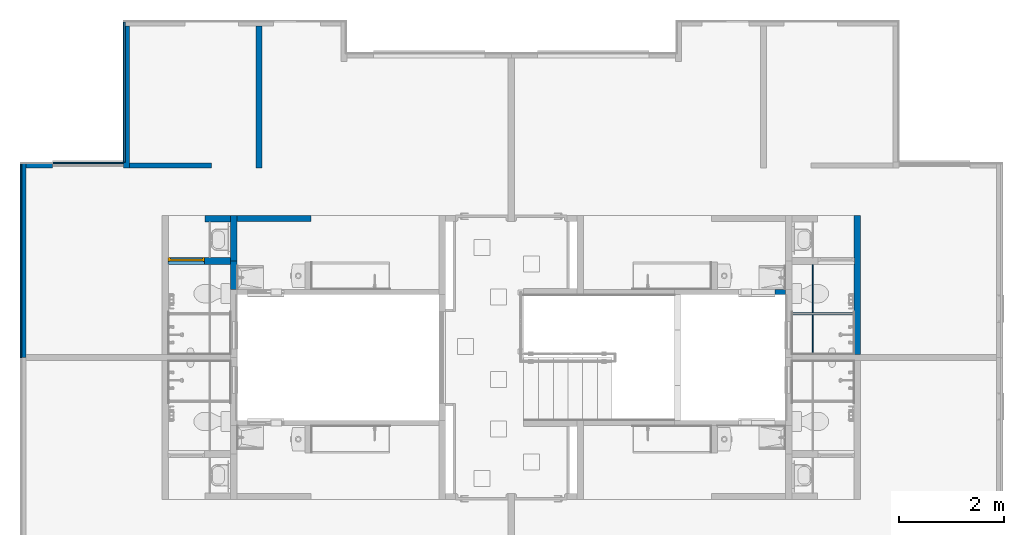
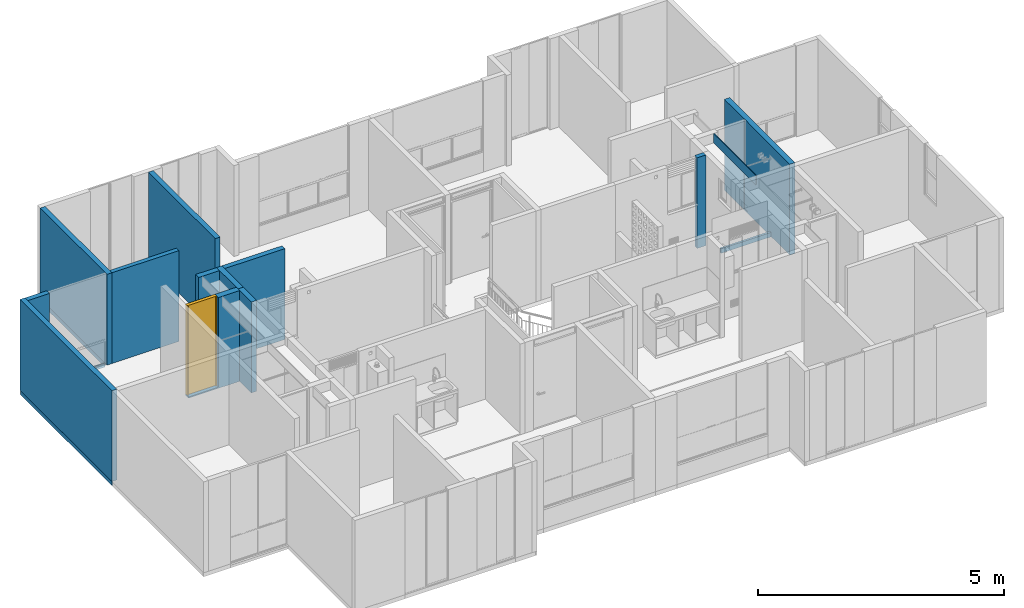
# One storey, part 15 of 47: 17 walls, 1 door, 2 openings.
"""IFC4 building model written with IfcOpenShell, lengths in metres."""

from ifc_helpers import new_model, entity, si_unit, converted_unit, derived_unit, direction, frame, origin, place, context, subcontext, project, spatial, indexed_curve, outline, extrude, polygons, source, transform, mapped, material, constituent, constituent_set, type_object, type_shapes, element, fill, save


model = new_model("IFC4")

# Units and contexts
model_context = context("Model", 3, precision=1e-05, world=origin(), true_north=direction((6.123031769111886e-17, 1.0)))
body_context = subcontext(model_context, "Body", "Model", "MODEL_VIEW")
ifc_project = project(units=[si_unit("LENGTHUNIT", "METRE"), si_unit("AREAUNIT", "SQUARE_METRE"), si_unit("VOLUMEUNIT", "CUBIC_METRE"), converted_unit("PLANEANGLEUNIT", "DEGREE", entity("IfcRatioMeasure", 0.017453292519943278), si_unit("PLANEANGLEUNIT", "RADIAN"), dimensions=[0, 0, 0, 0, 0, 0, 0]), si_unit("MASSUNIT", "GRAM", prefix="KILO"), derived_unit("MASSDENSITYUNIT", [(si_unit("MASSUNIT", "GRAM", prefix="KILO"), 1), (si_unit("LENGTHUNIT", "METRE"), -3)]), derived_unit("IONCONCENTRATIONUNIT", [(si_unit("MASSUNIT", "GRAM", prefix="KILO"), 1), (si_unit("LENGTHUNIT", "METRE"), -3)]), derived_unit("MOMENTOFINERTIAUNIT", [(si_unit("LENGTHUNIT", "METRE"), 4)]), si_unit("TIMEUNIT", "SECOND"), si_unit("FREQUENCYUNIT", "HERTZ"), si_unit("THERMODYNAMICTEMPERATUREUNIT", "DEGREE_CELSIUS"), derived_unit("THERMALTRANSMITTANCEUNIT", [(si_unit("MASSUNIT", "GRAM", prefix="KILO"), 1), (si_unit("THERMODYNAMICTEMPERATUREUNIT", "KELVIN"), -1), (si_unit("TIMEUNIT", "SECOND"), -3)]), derived_unit("THERMALCONDUCTANCEUNIT", [(si_unit("MASSUNIT", "GRAM", prefix="KILO"), 1), (si_unit("THERMODYNAMICTEMPERATUREUNIT", "KELVIN"), -1), (si_unit("TIMEUNIT", "SECOND"), -3), (si_unit("LENGTHUNIT", "METRE"), 1)]), derived_unit("VOLUMETRICFLOWRATEUNIT", [(si_unit("LENGTHUNIT", "METRE"), 3), (si_unit("TIMEUNIT", "SECOND"), -1)]), derived_unit("MASSFLOWRATEUNIT", [(si_unit("MASSUNIT", "GRAM", prefix="KILO"), 1), (si_unit("TIMEUNIT", "SECOND"), -1)]), derived_unit("ROTATIONALFREQUENCYUNIT", [(si_unit("TIMEUNIT", "SECOND"), -1)]), si_unit("ELECTRICCURRENTUNIT", "AMPERE"), si_unit("ELECTRICVOLTAGEUNIT", "VOLT"), si_unit("POWERUNIT", "WATT"), si_unit("FORCEUNIT", "NEWTON", prefix="KILO"), si_unit("ILLUMINANCEUNIT", "LUX"), si_unit("LUMINOUSFLUXUNIT", "LUMEN"), si_unit("LUMINOUSINTENSITYUNIT", "CANDELA"), derived_unit("USERDEFINED", [(si_unit("MASSUNIT", "GRAM", prefix="KILO"), -1), (si_unit("LENGTHUNIT", "METRE"), -2), (si_unit("TIMEUNIT", "SECOND"), 3), (si_unit("LUMINOUSFLUXUNIT", "LUMEN"), 1)]), derived_unit("USERDEFINED", [(si_unit("MASSUNIT", "GRAM", prefix="KILO"), 1), (si_unit("TIMEUNIT", "SECOND"), -3), (si_unit("LENGTHUNIT", "METRE"), 3), (si_unit("ELECTRICCURRENTUNIT", "AMPERE"), -2)]), derived_unit("SOUNDPOWERUNIT", [(si_unit("MASSUNIT", "GRAM", prefix="KILO"), 1), (si_unit("TIMEUNIT", "SECOND"), -3), (si_unit("LENGTHUNIT", "METRE"), 2)]), derived_unit("SOUNDPRESSUREUNIT", [(si_unit("MASSUNIT", "GRAM", prefix="KILO"), 1), (si_unit("LENGTHUNIT", "METRE"), -1), (si_unit("TIMEUNIT", "SECOND"), -2)]), derived_unit("LINEARVELOCITYUNIT", [(si_unit("LENGTHUNIT", "METRE"), 1), (si_unit("TIMEUNIT", "SECOND"), -1)]), si_unit("PRESSUREUNIT", "PASCAL"), derived_unit("USERDEFINED", [(si_unit("MASSUNIT", "GRAM", prefix="KILO"), 1), (si_unit("LENGTHUNIT", "METRE"), -2), (si_unit("TIMEUNIT", "SECOND"), -2)]), derived_unit("LINEARFORCEUNIT", [(si_unit("MASSUNIT", "GRAM", prefix="KILO"), 1), (si_unit("TIMEUNIT", "SECOND"), -2)]), derived_unit("PLANARFORCEUNIT", [(si_unit("MASSUNIT", "GRAM", prefix="KILO"), 1), (si_unit("LENGTHUNIT", "METRE"), -1), (si_unit("TIMEUNIT", "SECOND"), -2)]), derived_unit("SPECIFICHEATCAPACITYUNIT", [(si_unit("THERMODYNAMICTEMPERATUREUNIT", "KELVIN"), -1), (si_unit("LENGTHUNIT", "METRE"), 2), (si_unit("TIMEUNIT", "SECOND"), -2)]), derived_unit("HEATINGVALUEUNIT", [(si_unit("LENGTHUNIT", "METRE"), 2), (si_unit("TIMEUNIT", "SECOND"), -2)]), derived_unit("VAPORPERMEABILITYUNIT", [(si_unit("LENGTHUNIT", "METRE"), -1), (si_unit("TIMEUNIT", "SECOND"), 1)]), derived_unit("DYNAMICVISCOSITYUNIT", [(si_unit("MASSUNIT", "GRAM", prefix="KILO"), 1), (si_unit("TIMEUNIT", "SECOND"), -1), (si_unit("LENGTHUNIT", "METRE"), -1)]), derived_unit("THERMALEXPANSIONCOEFFICIENTUNIT", [(si_unit("THERMODYNAMICTEMPERATUREUNIT", "KELVIN"), -1)]), derived_unit("MODULUSOFELASTICITYUNIT", [(si_unit("MASSUNIT", "GRAM", prefix="KILO"), 1), (si_unit("LENGTHUNIT", "METRE"), -1), (si_unit("TIMEUNIT", "SECOND"), -2)]), derived_unit("ISOTHERMALMOISTURECAPACITYUNIT", [(si_unit("LENGTHUNIT", "METRE"), 3), (si_unit("MASSUNIT", "GRAM", prefix="KILO"), -1)]), derived_unit("MOISTUREDIFFUSIVITYUNIT", [(si_unit("TIMEUNIT", "SECOND"), -1), (si_unit("LENGTHUNIT", "METRE"), 2)])], contexts=[model_context])

# Site, building, storey
site_placement = place(None, origin())
site = spatial("IfcSite", under=ifc_project, at=site_placement, Name="Default", CompositionType="ELEMENT")
building_placement = place(site_placement, origin())
building = spatial("IfcBuilding", under=site, at=building_placement, CompositionType="ELEMENT")
storey_placement = place(building_placement, frame((0.0, 0.0, 11.750000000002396)))
storey = spatial("IfcBuildingStorey", under=building, at=storey_placement, Name="Nivel 6", CompositionType="ELEMENT", Elevation=11.750000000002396)

# Walls
ifc_material_1 = material(Name="Ladrillo claro (Aire)", Category="Materials")
wall_type_1 = type_object("IfcWallType", Name="Basic Wall:B2010 - 0.115m - Muro exterior en mampostería - Ladrillo", PredefinedType="STANDARD")
wall_1_placement = place(storey_placement, frame((0.0, -2.6950000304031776, 0.0), z_axis=(0.0, 0.0, 1.0), x_axis=(0.0, -1.0, 0.0)))
element("IfcWall", 1, at=wall_1_placement, inside=storey, type_object=wall_type_1, material=ifc_material_1, Name="Basic Wall:B2010 - 0.115m - Muro exterior en mampostería - Ladrillo", ObjectType="Basic Wall:B2010 - 0.115m - Muro exterior en mampostería - Ladrillo", PredefinedType="NOTDEFINED", context=body_context, shape_type="SweptSolid", body=[
    extrude(outline(indexed_curve([(3.7299999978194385, 0.0575), (-8.90011336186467e-17, 0.0575), (8.90011336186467e-17, -0.0575), (3.7299999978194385, -0.0575), (3.7299999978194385, 0.0575)], self_intersect=False)), origin(), (0.0, 0.0, 1.0), 2.2500000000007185),
])
wall_2_placement = place(storey_placement, frame((1.9749999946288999, -2.8100000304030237, 0.0), z_axis=(0.0, 0.0, 1.0), x_axis=(0.0, 1.0, 0.0)))
element("IfcWall", 2, at=wall_2_placement, inside=storey, type_object=wall_type_1, material=ifc_material_1, Name="Basic Wall:B2010 - 0.115m - Muro exterior en mampostería - Ladrillo", ObjectType="Basic Wall:B2010 - 0.115m - Muro exterior en mampostería - Ladrillo", PredefinedType="NOTDEFINED", context=body_context, shape_type="SweptSolid", body=[
    extrude(outline(indexed_curve([(2.7150000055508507, 0.05750000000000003), (-1.0301981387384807e-16, 0.057499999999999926), (1.0301981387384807e-16, -0.057499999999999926), (2.7150000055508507, -0.057499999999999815), (2.7150000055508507, 0.05750000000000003)], self_intersect=False)), origin(), (0.0, 0.0, 1.0), 2.2500000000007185),
])
ifc_material_2 = material(Name="LADRILLO CLARO", Category="Materials")
wall_type_2 = type_object("IfcWallType", Name="Basic Wall:B2010 - 0.115m - ME mampostería no estructural - Ladrillo", PredefinedType="STANDARD")
wall_3_placement = place(storey_placement, frame((0.05750000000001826, -2.7525000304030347, 0.0)))
element("IfcWall", 3, at=wall_3_placement, inside=storey, type_object=wall_type_2, material=ifc_material_2, Name="Basic Wall:B2010 - 0.115m - ME mampostería no estructural - Ladrillo", ObjectType="Basic Wall:B2010 - 0.115m - ME mampostería no estructural - Ladrillo", PredefinedType="NOTDEFINED", context=body_context, shape_type="SweptSolid", body=[
    extrude(outline(indexed_curve([(0.5099999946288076, 0.05749999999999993), (-3.859013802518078e-18, 0.057499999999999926), (3.859013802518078e-18, -0.057499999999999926), (0.5099999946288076, -0.05749999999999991), (0.5099999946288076, 0.05749999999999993)], self_intersect=False)), origin(), (0.0, 0.0, 1.0), 2.250000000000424),
])
wall_type_3 = type_object("IfcWallType", Name="Basic Wall:B2010 - 0.115m - Muro interior en mampostería - Ladrillo", PredefinedType="STANDARD")
wall_4_placement = place(storey_placement, frame((4.509999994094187, -0.09500002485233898, 0.0), z_axis=(0.0, 0.0, 1.0), x_axis=(0.0, -1.0, 0.0)))
element("IfcWall", 4, at=wall_4_placement, inside=storey, type_object=wall_type_3, material=ifc_material_1, Name="Basic Wall:B2010 - 0.115m - Muro interior en mampostería - Ladrillo", ObjectType="Basic Wall:B2010 - 0.115m - Muro interior en mampostería - Ladrillo", PredefinedType="NOTDEFINED", context=body_context, shape_type="SweptSolid", body=[
    extrude(outline(indexed_curve([(2.7150000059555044, 0.057500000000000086), (-2.3733436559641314e-18, 0.057499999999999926), (2.3733436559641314e-18, -0.057499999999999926), (2.7150000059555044, -0.05749999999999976), (2.7150000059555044, 0.057500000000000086)], self_intersect=False)), origin(), (0.0, 0.0, 1.0), 2.2499999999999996),
])
wall_5_placement = place(storey_placement, frame((4.087499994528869, -3.7675000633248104, 0.0)))
element("IfcWall", 5, at=wall_5_placement, inside=storey, type_object=wall_type_3, material=ifc_material_1, Name="Basic Wall:B2010 - 0.115m - Muro interior en mampostería - Ladrillo", ObjectType="Basic Wall:B2010 - 0.115m - Muro interior en mampostería - Ladrillo", PredefinedType="NOTDEFINED", context=body_context, shape_type="SweptSolid", body=[
    extrude(outline(indexed_curve([(1.4149999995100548, 0.05749999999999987), (-1.9595423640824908e-16, 0.057499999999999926), (1.9595423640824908e-16, -0.057499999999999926), (1.4149999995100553, -0.057499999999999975), (1.4149999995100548, 0.05749999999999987)], self_intersect=False)), origin(), (0.0, 0.0, 1.0), 2.2499999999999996),
])
ifc_material_3 = material(Name="Concreto (Aire)", Category="Materials")
wall_type_4 = type_object("IfcWallType", Name="Basic Wall:B2010 - 0.10m - Muro interior en concreto", PredefinedType="STANDARD")
wall_6_placement = place(storey_placement, frame((2.032499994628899, -2.7600000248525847, 0.0)))
element("IfcWall", 6, at=wall_6_placement, inside=storey, type_object=wall_type_4, material=ifc_material_3, Name="Basic Wall:B2010 - 0.10m - Muro interior en concreto", ObjectType="Basic Wall:B2010 - 0.10m - Muro interior en concreto", PredefinedType="NOTDEFINED", context=body_context, shape_type="SweptSolid", body=[
    extrude(outline(indexed_curve([(1.5699999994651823, 0.04999999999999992), (6.03923499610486e-18, 0.05), (-6.03923499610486e-18, -0.05), (1.5699999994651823, -0.050000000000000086), (1.5699999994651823, 0.04999999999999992)], self_intersect=False)), origin(), (0.0, 0.0, 1.0), 2.2499999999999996),
])
ifc_material_4 = material(Name="Pañete", Category="Materials")
ifc_constituent_1 = constituent(ifc_material_4, Name="Pañete", Category="Materials")
ifc_constituent_2 = constituent(ifc_material_1, Name="Ladrillo claro (Aire)", Category="Materials")
ifc_constituent_set_1 = constituent_set(constituents=[ifc_constituent_1, ifc_constituent_2], Name="Basic Wall:B2010 - 0.115m - Muro interior en mampostería - Ladrillo + Pañete")
wall_type_5 = type_object("IfcWallType", Name="Basic Wall:B2010 - 0.115m - Muro interior en mampostería - Ladrillo + Pañete", PredefinedType="STANDARD", material=ifc_constituent_set_1)
wall_7_placement = place(storey_placement, frame((3.4724999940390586, -3.7725000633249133, 0.0)))
element("IfcWall", 7, at=wall_7_placement, inside=storey, type_object=wall_type_5, material=ifc_constituent_set_1, Name="Basic Wall:B2010 - 0.115m - Muro interior en mampostería - Ladrillo + Pañete", ObjectType="Basic Wall:B2010 - 0.115m - Muro interior en mampostería - Ladrillo + Pañete", PredefinedType="NOTDEFINED", context=body_context, shape_type="SweptSolid", body=[
    extrude(outline(indexed_curve([(-0.0050000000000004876, -0.24500000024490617), (0.004999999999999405, -0.24500000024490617), (0.005000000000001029, 0.24500000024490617), (-0.004999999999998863, 0.24500000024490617), (-0.0050000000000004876, -0.24500000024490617)], self_intersect=False)), frame((0.24500000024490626, -0.05750000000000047, 0.0), z_axis=(0.0, 0.0, 1.0), x_axis=(0.0, 1.0, 0.0)), (0.0, 0.0, 1.0), 2.2500000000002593),
    extrude(outline(indexed_curve([(-0.057499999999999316, -0.2450000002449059), (0.05750000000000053, -0.24500000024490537), (0.05749999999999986, 0.24500000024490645), (-0.05749999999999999, 0.24500000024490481), (-0.057499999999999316, -0.2450000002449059)], self_intersect=False)), frame((0.24500000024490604, 0.004999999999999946, 0.0), z_axis=(0.0, 0.0, 1.0), x_axis=(0.0, -1.0, 0.0)), (0.0, 0.0, 1.0), 2.2500000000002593),
])

# Wall, opening
wall_8_placement = place(storey_placement, frame((15.929998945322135, -3.7100000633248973, 0.0), z_axis=(0.0, 0.0, 1.0), x_axis=(0.0, -1.0, 0.0)))
wall_8 = element("IfcWall", 8, at=wall_8_placement, inside=storey, type_object=wall_type_5, material=ifc_constituent_set_1, Name="Basic Wall:B2010 - 0.115m - Muro interior en mampostería - Ladrillo + Pañete", ObjectType="Basic Wall:B2010 - 0.115m - Muro interior en mampostería - Ladrillo + Pañete", PredefinedType="NOTDEFINED", context=body_context, shape_type="SweptSolid", body=[
    extrude(outline(indexed_curve([(-0.7550000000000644, -1.1920833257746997), (1.4949999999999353, -1.1920833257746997), (1.4949999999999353, -0.38708332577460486), (-0.7249999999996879, -0.38708332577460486), (-0.7249999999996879, -0.2520833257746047), (1.4949999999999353, -0.2520833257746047), (1.4949999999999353, 1.4629166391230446), (-0.7550000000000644, 1.4629166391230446), (-0.7550000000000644, 0.7129166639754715), (-0.7550000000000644, 0.662916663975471), (-0.7550000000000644, -0.2520833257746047), (-0.7550000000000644, -0.38708332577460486), (-0.7550000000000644, -1.1920833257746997)], self_intersect=False)), frame((1.1920833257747, -0.062499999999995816, 0.7550000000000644), z_axis=(0.0, 1.0, 0.0), x_axis=(0.0, 0.0, 1.0)), (0.0, 0.0, 1.0), 0.009999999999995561),
    extrude(outline(indexed_curve([(-0.05750000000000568, -1.3274999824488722), (0.05749999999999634, -1.3274999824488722), (0.05750000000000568, 1.3274999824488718), (-0.05749999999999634, 1.3274999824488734), (-0.05750000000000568, -1.3274999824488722)], self_intersect=False)), frame((1.3274999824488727, 0.005000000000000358, 0.0), z_axis=(0.0, 0.0, 1.0), x_axis=(0.0, -1.0, 0.0)), (0.0, 0.0, 1.0), 2.2499999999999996),
])
opening_1_placement = place(wall_8_placement, origin())
element("IfcOpeningElement", 9, at=opening_1_placement, cuts=wall_8, Name="Basic Wall:B2010 - 0.115m - Muro interior en mampostería - Ladrillo + Pañete", PredefinedType="OPENING", context=body_context, shape_type="SweptSolid", body=[
    extrude(outline(indexed_curve([(-0.06749999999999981, -1.1099999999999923), (0.06750000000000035, -1.1099999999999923), (0.06750000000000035, 1.1099999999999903), (-0.06749999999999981, 1.1099999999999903), (-0.06749999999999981, -1.1099999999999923)], self_intersect=False)), frame((0.8725000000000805, -0.7524999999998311, 1.1400000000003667), z_axis=(0.0, 1.0, 0.0), x_axis=(1.0, 0.0, 0.0)), (0.0, 0.0, 1.0), 0.7000000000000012),
])

# Wall, opening, door
ifc_constituent_3 = constituent(ifc_material_4, Name="Pañete", Category="Materials")
ifc_constituent_4 = constituent(ifc_material_2, Name="LADRILLO CLARO", Category="Materials")
ifc_constituent_5 = constituent(ifc_material_4, Name="Pañete (2)", Category="Materials")
ifc_constituent_set_2 = constituent_set(constituents=[ifc_constituent_3, ifc_constituent_4, ifc_constituent_5], Name="Basic Wall:B2010 - 0.115m - MI  mampostería no estructural - Pañete + Ladrillo + Pañete")
wall_type_6 = type_object("IfcWallType", Name="Basic Wall:B2010 - 0.115m - MI  mampostería no estructural - Pañete + Ladrillo + Pañete", PredefinedType="STANDARD", material=ifc_constituent_set_2)
wall_9_placement = place(storey_placement, frame((3.962499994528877, -4.582500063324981, 0.0), z_axis=(0.0, 0.0, 1.0), x_axis=(-1.0, 0.0, 0.0)))
wall_9 = element("IfcWall", 10, at=wall_9_placement, inside=storey, type_object=wall_type_6, material=ifc_constituent_set_2, Name="Basic Wall:B2010 - 0.115m - MI  mampostería no estructural - Pañete + Ladrillo + Pañete", ObjectType="Basic Wall:B2010 - 0.115m - MI  mampostería no estructural - Pañete + Ladrillo + Pañete", PredefinedType="NOTDEFINED", context=body_context, shape_type="SweptSolid", body=[
    extrude(outline(indexed_curve([(-1.1325000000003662, -0.6649994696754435), (-1.102500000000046, -0.6649994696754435), (-1.102500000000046, 0.025000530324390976), (1.1175000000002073, 0.025000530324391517), (1.1175000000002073, 0.10999946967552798), (1.1175000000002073, 0.12999946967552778), (1.1175000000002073, 0.5199994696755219), (-1.1325000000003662, 0.5199994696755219), (-1.1325000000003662, -0.6649994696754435)], self_intersect=False)), frame((0.5199994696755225, 0.06750000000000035, 1.1325000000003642), z_axis=(0.0, -1.0, 0.0), x_axis=(0.0, 0.0, 1.0)), (0.0, 0.0, 1.0), 0.009999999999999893),
    extrude(outline(indexed_curve([(-0.7600000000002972, -0.6249996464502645), (-0.729999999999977, -0.6249996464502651), (-0.729999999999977, 0.06500035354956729), (1.4900000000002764, 0.06500035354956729), (1.4900000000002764, 0.5599992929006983), (-0.7600000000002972, 0.5599992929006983), (-0.7600000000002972, -0.6249996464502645)], self_intersect=False)), frame((0.5599992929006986, -0.05750000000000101, 0.760000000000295), z_axis=(0.0, -1.0, 0.0), x_axis=(0.0, 0.0, 1.0)), (0.0, 0.0, 1.0), 0.010000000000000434),
    extrude(outline(indexed_curve([(-0.7600000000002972, -0.6316663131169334), (-0.729999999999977, -0.6316663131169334), (-0.7299999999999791, 0.06833368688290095), (1.4900000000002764, 0.06833368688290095), (1.4900000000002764, 0.5633326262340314), (-0.7600000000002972, 0.5633326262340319), (-0.7600000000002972, -0.6316663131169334)], self_intersect=False)), frame((0.5633326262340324, 0.057499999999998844, 0.760000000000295), z_axis=(0.0, -1.0, 0.0), x_axis=(0.0, 0.0, 1.0)), (0.0, 0.0, 1.0), 0.11499999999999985),
])
opening_2_placement = place(wall_9_placement, frame((0.49499893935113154, -0.06749999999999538, 0.0299999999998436)))
opening_2 = element("IfcOpeningElement", 11, at=opening_2_placement, cuts=wall_9, Name="C1030 - Puerta batiente - Madera+Aluminio:C1030 - 0.70 x 2.22 - Puerta batiente - Madera+ Metal:1", PredefinedType="OPENING", context=body_context, shape_type="SweptSolid", body=[
    extrude(outline(indexed_curve([(-2.8961849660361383e-19, 1.3535839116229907e-16), (2.2199999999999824, 1.3535839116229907e-16), (2.2199999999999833, 0.7000000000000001), (1.438182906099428e-16, 0.7000000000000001), (-2.8961849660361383e-19, 1.3535839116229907e-16)], self_intersect=False)), frame((0.0, 0.0, 0.0), z_axis=(0.0, 1.0, 0.0), x_axis=(0.0, 0.0, 1.0)), (0.0, 0.0, 1.0), 0.13499999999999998),
])
ifc_material_5 = material(Name="<Unnamed>")
door_type = type_object("IfcDoorType", Name="C1030 - Puerta batiente - Madera+Aluminio:C1030 - 0.70 x 2.22 - Puerta batiente - Madera+ Metal", OperationType="SINGLE_SWING_RIGHT", PredefinedType="DOOR", material=ifc_material_5)
shared_shape = source(origin(), body_context, "Body", "Tessellation", [
    polygons([(0.030000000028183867, 0.06499999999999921, 0.009880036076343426), (0.6699999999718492, 0.06499999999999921, 0.009880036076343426), (0.6699999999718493, 0.0324999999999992, 0.009880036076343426), (0.030000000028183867, 0.0324999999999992, 0.009880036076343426), (0.030000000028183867, 0.06499999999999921, 2.2050000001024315), (0.030000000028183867, 0.0324999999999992, 2.2050000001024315), (0.6699999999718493, 0.0324999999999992, 2.2050000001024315), (0.6699999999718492, 0.06499999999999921, 2.2050000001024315)], [[[1, 2, 3, 4]], [[5, 1, 4, 6]], [[6, 4, 3, 7]], [[7, 3, 2, 8]], [[8, 2, 1, 5]], [[5, 6, 7, 8]]], closed=True),
    polygons([(0.015000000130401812, 0.0649999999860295, 0.0), (0.015000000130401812, 0.07999999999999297, 0.0), (0.030000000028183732, 0.07999999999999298, 0.0), (0.030000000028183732, 0.04000000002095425, 0.0), (0.045000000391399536, 0.04000000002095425, 0.0), (0.045000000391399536, -1.6919798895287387e-17, 0.0), (0.015000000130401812, -5.075939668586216e-17, 0.0), (0.015000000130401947, 0.007499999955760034, 0.0), (1.651372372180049e-14, 0.0074999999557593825, 0.0), (1.651372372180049e-14, 0.0649999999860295, 0.0), (1.651372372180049e-14, 0.0074999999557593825, 2.2199999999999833), (0.015000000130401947, 0.007499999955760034, 2.2199999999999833), (0.015000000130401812, 0.0649999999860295, 2.2199999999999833), (1.651372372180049e-14, 0.0649999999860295, 2.2199999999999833), (0.6849999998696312, 0.06499999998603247, 0.0), (0.7000000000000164, 0.06499999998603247, 0.0), (0.7000000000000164, 0.007499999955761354, 0.0), (0.6849999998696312, 0.007499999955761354, 0.0), (0.6849999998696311, 0.0, 0.0), (0.6549999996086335, 0.0, 0.0), (0.6549999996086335, 0.04000000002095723, 0.0), (0.6699999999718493, 0.04000000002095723, 0.0), (0.6699999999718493, 0.07999999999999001, 0.0), (0.6849999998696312, 0.07999999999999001, 0.0), (0.7000000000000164, 0.06499999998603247, 2.2199999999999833), (0.6849999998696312, 0.06499999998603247, 2.2199999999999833), (0.6849999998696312, 0.007499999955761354, 2.2199999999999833), (0.7000000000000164, 0.007499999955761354, 2.2199999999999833), (0.6549999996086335, 0.0, 2.189999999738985), (0.6549999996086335, 0.03250000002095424, 2.189999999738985), (0.6549999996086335, 0.03250000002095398, 2.2050000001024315), (0.6549999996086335, 0.04000000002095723, 2.2050000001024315), (0.045000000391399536, 0.04000000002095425, 2.2050000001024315), (0.045000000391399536, 0.03250000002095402, 2.2050000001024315), (0.045000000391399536, 0.032500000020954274, 2.189999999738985), (0.045000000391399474, -1.6919798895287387e-17, 2.189999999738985), (0.6699999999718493, 0.04000000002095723, 2.2050000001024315), (0.6699999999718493, 0.07249999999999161, 2.2050000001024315), (0.6699999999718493, 0.07249999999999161, 2.2199999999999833), (0.6699999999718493, 0.07999999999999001, 2.2199999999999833), (0.030000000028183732, 0.07999999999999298, 2.2199999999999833), (0.030000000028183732, 0.07249999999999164, 2.2199999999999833), (0.030000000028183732, 0.07249999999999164, 2.2050000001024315), (0.030000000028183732, 0.04000000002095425, 2.2050000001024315), (0.6849999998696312, 0.07999999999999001, 2.2199999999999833), (0.6849999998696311, 0.0, 2.2199999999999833), (0.015000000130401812, -5.075939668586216e-17, 2.2199999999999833), (0.015000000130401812, 0.07999999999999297, 2.2199999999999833)], [[[1, 2, 3, 4, 5, 6, 7, 8, 9, 10]], [[11, 9, 8, 12]], [[13, 1, 10, 14]], [[15, 16, 17, 18, 19, 20, 21, 22, 23, 24]], [[25, 16, 15, 26]], [[27, 18, 17, 28]], [[20, 29, 30, 31, 32, 21]], [[5, 33, 34, 35, 36, 6]], [[22, 37, 38, 39, 40, 23]], [[3, 41, 42, 43, 44, 4]], [[28, 17, 16, 25]], [[14, 10, 9, 11]], [[26, 15, 24, 45]], [[45, 24, 23, 40]], [[21, 32, 37, 22]], [[19, 46, 47, 7, 6, 36, 29, 20]], [[46, 19, 18, 27]], [[12, 8, 7, 47]], [[48, 2, 1, 13]], [[26, 45, 40, 39, 42, 41, 48, 13, 14, 11, 12, 47, 46, 27, 28, 25]], [[38, 37, 32, 31, 34, 33, 44, 43]], [[36, 35, 30, 29]], [[4, 44, 33, 5]], [[41, 3, 2, 48]], [[35, 34, 31, 30]], [[43, 42, 39, 38]]], closed=True),
])
type_shapes(door_type, [shared_shape])
door_placement = place(opening_2_placement, origin())
door = element("IfcDoor", 12, at=door_placement, inside=storey, type_object=door_type, material=ifc_material_5, Name="C1030 - Puerta batiente - Madera+Aluminio:C1030 - 0.70 x 2.22 - Puerta batiente - Madera+ Metal", ObjectType="C1030 - Puerta batiente - Madera+Aluminio:C1030 - 0.70 x 2.22 - Puerta batiente - Madera+ Metal", OperationType="NOTDEFINED", OverallHeight=2.2199999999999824, OverallWidth=0.7000000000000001, PredefinedType="DOOR", context=body_context, shape_type="MappedRepresentation", body=[
    mapped(shared_shape, transform((0.0, 0.0, 0.0), scale=1.0)),
])
fill(opening_2, door)

# Walls
ifc_material_6 = material(Name="PINTURA BLANCA PARA EXTERIORES", Category="Materials")
ifc_constituent_6 = constituent(ifc_material_6, Name="PINTURA BLANCA PARA EXTERIORES", Category="Materials")
ifc_material_7 = material(Name="Concreto - Fundido in situ", Category="Materials")
ifc_constituent_7 = constituent(ifc_material_7, Name="Concreto - Fundido in situ", Category="Materials")
ifc_constituent_set_3 = constituent_set(constituents=[ifc_constituent_6, ifc_constituent_7], Name="Basic Wall:B2010 - 0.10m - MI no estructural- Concreto + repello+ pintura blanca")
wall_type_7 = type_object("IfcWallType", Name="Basic Wall:B2010 - 0.10m - MI no estructural- Concreto + repello+ pintura blanca", PredefinedType="STANDARD", material=ifc_constituent_set_3)
wall_10_placement = place(storey_placement, frame((14.557500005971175, -5.175000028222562, 0.0), z_axis=(0.0, 0.0, 1.0), x_axis=(-1.0, 0.0, 0.0)))
element("IfcWall", 13, at=wall_10_placement, inside=storey, type_object=wall_type_7, material=ifc_constituent_set_3, Name="Basic Wall:B2010 - 0.10m - MI no estructural- Concreto + repello+ pintura blanca", ObjectType="Basic Wall:B2010 - 0.10m - MI no estructural- Concreto + repello+ pintura blanca", PredefinedType="NOTDEFINED", context=body_context, shape_type="SweptSolid", body=[
    extrude(outline(indexed_curve([(-0.000500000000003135, -0.10000000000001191), (0.0004999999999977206, -0.10000000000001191), (0.0005000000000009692, 0.10000000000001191), (-0.0004999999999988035, 0.10000000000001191), (-0.000500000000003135, -0.10000000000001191)], self_intersect=False)), frame((0.10000000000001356, 0.04999999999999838, 0.0), z_axis=(0.0, 0.0, 1.0), x_axis=(0.0, -1.0, 0.0)), (0.0, 0.0, 1.0), 2.2499999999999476),
    extrude(outline(indexed_curve([(-0.04999999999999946, -0.10000000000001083), (0.050000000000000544, -0.10000000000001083), (0.04999999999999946, 0.10000000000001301), (-0.04999999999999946, 0.10000000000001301), (-0.04999999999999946, -0.10000000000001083)], self_intersect=False)), frame((0.10000000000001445, -0.0005000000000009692, 0.0), z_axis=(0.0, 0.0, 1.0), x_axis=(0.0, 1.0, 0.0)), (0.0, 0.0, 1.0), 2.2499999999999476),
])
ifc_material_8 = material(Name="Pañete, estuco y pintura", Category="Materials")
ifc_constituent_8 = constituent(ifc_material_8, Name="Pañete, estuco y pintura", Category="Materials")
ifc_constituent_9 = constituent(ifc_material_1, Name="Ladrillo claro (Aire)", Category="Materials")
ifc_constituent_set_4 = constituent_set(constituents=[ifc_constituent_8, ifc_constituent_9], Name="Basic Wall:B2010 - 0.115m - Muro interior en mampostería - Ladrillo + Pañete+ estuco+ pintura")
wall_type_8 = type_object("IfcWallType", Name="Basic Wall:B2010 - 0.115m - Muro interior en mampostería - Ladrillo + Pañete+ estuco+ pintura", PredefinedType="STANDARD", material=ifc_constituent_set_4)
wall_11_placement = place(storey_placement, frame((4.024999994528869, -3.7100000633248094, 0.0), z_axis=(0.0, 0.0, 1.0), x_axis=(0.0, -1.0, 0.0)))
element("IfcWall", 14, at=wall_11_placement, inside=storey, type_object=wall_type_8, material=ifc_constituent_set_4, Name="Basic Wall:B2010 - 0.115m - Muro interior en mampostería - Ladrillo + Pañete+ estuco+ pintura", ObjectType="Basic Wall:B2010 - 0.115m - Muro interior en mampostería - Ladrillo + Pañete+ estuco+ pintura", PredefinedType="NOTDEFINED", context=body_context, shape_type="SweptSolid", body=[
    extrude(outline(indexed_curve([(-0.32083333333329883, -0.0033333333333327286), (0.35916666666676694, -0.0033333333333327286), (0.42666666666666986, -0.0033333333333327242), (0.4266666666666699, 0.0066666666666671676), (-0.4458333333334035, 0.0066666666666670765), (-0.44583333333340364, -0.0033333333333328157), (-0.32083333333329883, -0.0033333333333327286)], self_intersect=False)), frame((0.44583333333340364, -0.05916666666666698, 0.0)), (0.0, 0.0, 1.0), 2.2499999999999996),
    extrude(outline(indexed_curve([(0.25700000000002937, -0.04599999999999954), (0.37200000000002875, -0.04599999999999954), (0.37200000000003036, 0.0690000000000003), (-0.5005000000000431, 0.06900000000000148), (-0.5005000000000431, -0.04599999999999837), (0.25700000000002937, -0.04599999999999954)], self_intersect=False)), frame((0.3720000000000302, 0.016500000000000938, 0.0), z_axis=(0.0, 0.0, 1.0), x_axis=(-1.0, 0.0, 0.0)), (0.0, 0.0, 1.0), 2.2499999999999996),
])
wall_12_placement = place(storey_placement, frame((4.024999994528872, -4.582500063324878, 0.0), z_axis=(0.0, 0.0, 1.0), x_axis=(0.0, -1.0, 0.0)))
element("IfcWall", 15, at=wall_12_placement, inside=storey, type_object=wall_type_8, material=ifc_constituent_set_4, Name="Basic Wall:B2010 - 0.115m - Muro interior en mampostería - Ladrillo + Pañete+ estuco+ pintura", ObjectType="Basic Wall:B2010 - 0.115m - Muro interior en mampostería - Ladrillo + Pañete+ estuco+ pintura", PredefinedType="NOTDEFINED", context=body_context, shape_type="SweptSolid", body=[
    extrude(outline(indexed_curve([(-0.1628056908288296, -0.004000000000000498), (0.3117085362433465, -0.004000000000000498), (0.31170853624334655, 0.005999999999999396), (-0.23030569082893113, 0.005999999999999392), (-0.2303056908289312, -0.0040000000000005), (-0.1628056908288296, -0.004000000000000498)], self_intersect=False)), frame((0.23030569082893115, -0.058499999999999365, 0.0)), (0.0, 0.0, 1.0), 2.2499999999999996),
    extrude(outline(indexed_curve([(0.09067143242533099, -0.03833333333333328), (0.12467143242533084, -0.03833333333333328), (0.21717139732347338, -0.0383333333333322), (0.2171713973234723, 0.07666666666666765), (-0.32484282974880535, 0.07666666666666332), (-0.3248428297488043, -0.03833333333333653), (0.09067143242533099, -0.03833333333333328)], self_intersect=False)), frame((0.21717139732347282, 0.02416666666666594, 0.0), z_axis=(0.0, 0.0, 1.0), x_axis=(-1.0, 0.0, 0.0)), (0.0, 0.0, 1.0), 2.2499999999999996),
])
ifc_material_9 = material(Name="0 muro divisorio", Category="Materials")
wall_type_9 = type_object("IfcWallType", Name="Basic Wall:B2010 - 0.05m - Poyo para duchas - Concreto", PredefinedType="STANDARD")
wall_13_placement = place(storey_placement, frame((15.867498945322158, -5.5900000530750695, 0.0), z_axis=(0.0, 0.0, 1.0), x_axis=(-1.0, 0.0, 0.0)))
element("IfcWall", 16, at=wall_13_placement, inside=storey, type_object=wall_type_9, material=ifc_material_9, Name="Basic Wall:B2010 - 0.05m - Poyo para duchas - Concreto", ObjectType="Basic Wall:B2010 - 0.05m - Poyo para duchas - Concreto", PredefinedType="NOTDEFINED", context=body_context, shape_type="SweptSolid", body=[
    extrude(outline(indexed_curve([(1.1749989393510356, 0.02499999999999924), (-2.4304076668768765e-16, 0.02499999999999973), (2.4304076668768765e-16, -0.02499999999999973), (1.1749989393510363, -0.025000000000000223), (1.1749989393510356, 0.02499999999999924)], self_intersect=False)), origin(), (0.0, 0.0, 1.0), 0.1100000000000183),
])
ifc_material_10 = material(Name="Plasterboard", Category="Materials")
wall_type_10 = type_object("IfcWallType", Name="Basic Wall:C1070 - 0.02m - Plafón - Drywall", PredefinedType="STANDARD")
wall_14_placement = place(storey_placement, frame((15.082500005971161, -6.365000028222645, 2.019999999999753), z_axis=(0.0, 0.0, 1.0), x_axis=(0.0, 1.0, 0.0)))
element("IfcWall", 17, at=wall_14_placement, inside=storey, type_object=wall_type_10, material=ifc_material_10, Name="Basic Wall:C1070 - 0.02m - Plafón - Drywall", ObjectType="Basic Wall:C1070 - 0.02m - Plafón - Drywall", PredefinedType="NOTDEFINED", context=body_context, shape_type="SweptSolid", body=[
    extrude(outline(indexed_curve([(1.7149999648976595, 0.010000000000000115), (-7.706224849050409e-17, 0.009999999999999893), (7.706224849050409e-17, -0.009999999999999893), (1.7149999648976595, -0.00999999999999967), (1.7149999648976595, 0.010000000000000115)], self_intersect=False)), origin(), (0.0, 0.0, 1.0), 0.23000000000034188),
])
wall_type_11 = type_object("IfcWallType", Name="Basic Wall:B2010 - 0.03m - ME enchape  no estructural - Ladrillo", PredefinedType="STANDARD")
wall_15_placement = place(storey_placement, frame((1.932499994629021, -0.010000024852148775, -0.10000000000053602), z_axis=(0.0, 0.0, 1.0), x_axis=(0.0, -1.0, 0.0)))
element("IfcWall", 18, at=wall_15_placement, inside=storey, type_object=wall_type_11, material=ifc_material_2, Name="Basic Wall:B2010 - 0.03m - ME enchape  no estructural - Ladrillo", ObjectType="Basic Wall:B2010 - 0.03m - ME enchape  no estructural - Ladrillo", PredefinedType="NOTDEFINED", context=body_context, shape_type="SweptSolid", body=[
    extrude(outline(indexed_curve([(2.6836602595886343, 0.015000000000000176), (1.2417119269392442e-18, 0.015000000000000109), (-1.2417119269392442e-18, -0.015000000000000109), (2.6836602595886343, -0.015000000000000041), (2.6836602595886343, 0.015000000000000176)], self_intersect=False)), origin(), (0.0, 0.0, 1.0), 0.09999999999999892),
])
wall_16_placement = place(storey_placement, frame((-0.04249999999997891, -2.7250000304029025, -0.10000000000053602), z_axis=(0.0, 0.0, 1.0), x_axis=(0.0, -1.0, 0.0)))
element("IfcWall", 19, at=wall_16_placement, inside=storey, type_object=wall_type_11, material=ifc_material_2, Name="Basic Wall:B2010 - 0.03m - ME enchape  no estructural - Ladrillo", ObjectType="Basic Wall:B2010 - 0.03m - ME enchape  no estructural - Ladrillo", PredefinedType="NOTDEFINED", context=body_context, shape_type="SweptSolid", body=[
    extrude(outline(indexed_curve([(3.699999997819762, 0.015), (-2.796678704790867e-17, 0.015), (2.796678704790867e-17, -0.015), (3.699999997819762, -0.015000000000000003), (3.699999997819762, 0.015)], self_intersect=False)), origin(), (0.0, 0.0, 1.0), 0.09999999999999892),
])
wall_17_placement = place(storey_placement, frame((0.5674999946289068, -2.710000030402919, -0.10000000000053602)))
element("IfcWall", 20, at=wall_17_placement, inside=storey, type_object=wall_type_11, material=ifc_material_2, Name="Basic Wall:B2010 - 0.03m - ME enchape  no estructural - Ladrillo", ObjectType="Basic Wall:B2010 - 0.03m - ME enchape  no estructural - Ladrillo", PredefinedType="NOTDEFINED", context=body_context, shape_type="SweptSolid", body=[
    extrude(outline(indexed_curve([(1.3500000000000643, 0.01499999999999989), (2.443197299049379e-18, 0.014999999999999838), (-2.443197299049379e-18, -0.014999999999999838), (1.3500000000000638, -0.014999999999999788), (1.3500000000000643, 0.01499999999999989)], self_intersect=False)), origin(), (0.0, 0.0, 1.0), 0.09999999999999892),
])

save(model, "model.ifc")
